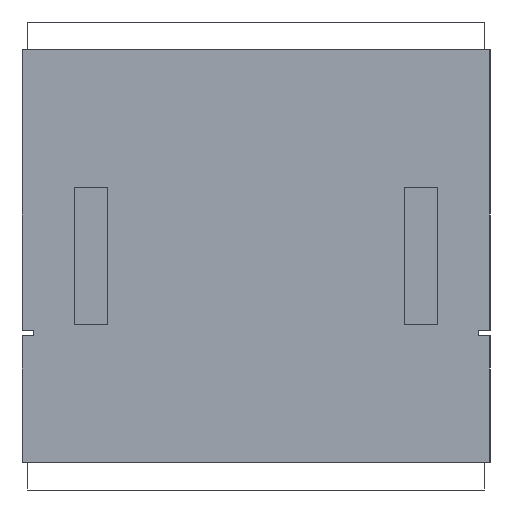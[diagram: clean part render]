
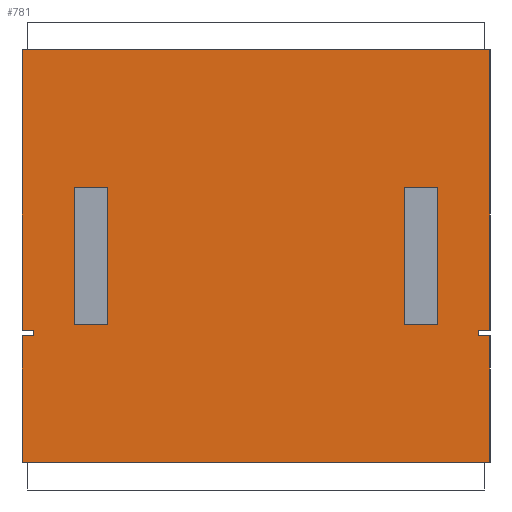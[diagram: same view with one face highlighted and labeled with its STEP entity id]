
A CAD part, left-side view. The second image highlights one B-rep face of the part: STEP entity #781.
In plain terms, the highlighted planar face has unit normal (-1, 0, 0).
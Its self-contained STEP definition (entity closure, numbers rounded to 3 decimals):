
#47=FACE_OUTER_BOUND('',#93,.T.);
#93=EDGE_LOOP('',(#582,#583,#584,#585,#586,#587,#588,#589,#590,#591,#592,
#593));
#126=LINE('',#1090,#234);
#130=LINE('',#1098,#238);
#133=LINE('',#1104,#241);
#136=LINE('',#1111,#244);
#140=LINE('',#1119,#248);
#143=LINE('',#1125,#251);
#146=LINE('',#1131,#254);
#155=LINE('',#1147,#263);
#156=LINE('',#1150,#264);
#158=LINE('',#1153,#266);
#160=LINE('',#1157,#268);
#161=LINE('',#1159,#269);
#234=VECTOR('',#888,10.);
#238=VECTOR('',#894,10.);
#241=VECTOR('',#899,10.);
#244=VECTOR('',#904,10.);
#248=VECTOR('',#910,10.);
#251=VECTOR('',#915,10.);
#254=VECTOR('',#920,10.);
#263=VECTOR('',#933,10.);
#264=VECTOR('',#936,10.);
#266=VECTOR('',#940,10.);
#268=VECTOR('',#944,10.);
#269=VECTOR('',#947,10.);
#342=VERTEX_POINT('',#1088);
#343=VERTEX_POINT('',#1089);
#346=VERTEX_POINT('',#1097);
#348=VERTEX_POINT('',#1103);
#350=VERTEX_POINT('',#1109);
#351=VERTEX_POINT('',#1110);
#354=VERTEX_POINT('',#1118);
#356=VERTEX_POINT('',#1124);
#358=VERTEX_POINT('',#1130);
#363=VERTEX_POINT('',#1145);
#364=VERTEX_POINT('',#1149);
#365=VERTEX_POINT('',#1155);
#414=EDGE_CURVE('',#342,#343,#126,.T.);
#418=EDGE_CURVE('',#346,#342,#130,.T.);
#421=EDGE_CURVE('',#343,#348,#133,.T.);
#424=EDGE_CURVE('',#350,#351,#136,.T.);
#428=EDGE_CURVE('',#354,#350,#140,.T.);
#431=EDGE_CURVE('',#356,#354,#143,.T.);
#434=EDGE_CURVE('',#358,#346,#146,.T.);
#443=EDGE_CURVE('',#351,#363,#155,.T.);
#444=EDGE_CURVE('',#364,#356,#156,.T.);
#446=EDGE_CURVE('',#363,#358,#158,.T.);
#448=EDGE_CURVE('',#348,#365,#160,.T.);
#449=EDGE_CURVE('',#365,#364,#161,.T.);
#582=ORIENTED_EDGE('',*,*,#421,.T.);
#583=ORIENTED_EDGE('',*,*,#448,.T.);
#584=ORIENTED_EDGE('',*,*,#449,.T.);
#585=ORIENTED_EDGE('',*,*,#444,.T.);
#586=ORIENTED_EDGE('',*,*,#431,.T.);
#587=ORIENTED_EDGE('',*,*,#428,.T.);
#588=ORIENTED_EDGE('',*,*,#424,.T.);
#589=ORIENTED_EDGE('',*,*,#443,.T.);
#590=ORIENTED_EDGE('',*,*,#446,.T.);
#591=ORIENTED_EDGE('',*,*,#434,.T.);
#592=ORIENTED_EDGE('',*,*,#418,.T.);
#593=ORIENTED_EDGE('',*,*,#414,.T.);
#735=PLANE('',#851);
#781=ADVANCED_FACE('',(#47),#735,.F.);
#851=AXIS2_PLACEMENT_3D('',#1160,#948,#949);
#888=DIRECTION('',(0.,0.,1.));
#894=DIRECTION('',(0.,1.,0.));
#899=DIRECTION('',(0.,-1.,0.));
#904=DIRECTION('',(0.,1.,0.));
#910=DIRECTION('',(0.,0.,-1.));
#915=DIRECTION('',(0.,-1.,0.));
#920=DIRECTION('',(0.,0.,1.));
#933=DIRECTION('',(0.,0.,-1.));
#936=DIRECTION('',(0.,0.,-1.));
#940=DIRECTION('',(0.,-1.,0.));
#944=DIRECTION('',(0.,0.,1.));
#947=DIRECTION('',(0.,1.,0.));
#948=DIRECTION('center_axis',(1.,0.,0.));
#949=DIRECTION('ref_axis',(0.,0.,-1.));
#1088=CARTESIAN_POINT('',(0.,-40.5,-14.5));
#1089=CARTESIAN_POINT('',(0.,-40.5,-13.5));
#1090=CARTESIAN_POINT('',(0.,-40.5,-7.25));
#1097=CARTESIAN_POINT('',(0.,-42.5,-14.5));
#1098=CARTESIAN_POINT('',(0.,-21.25,-14.5));
#1103=CARTESIAN_POINT('',(0.,-42.5,-13.5));
#1104=CARTESIAN_POINT('',(0.,-20.25,-13.5));
#1109=CARTESIAN_POINT('',(0.,40.5,-14.5));
#1110=CARTESIAN_POINT('',(0.,42.5,-14.5));
#1111=CARTESIAN_POINT('',(0.,20.25,-14.5));
#1118=CARTESIAN_POINT('',(0.,40.5,-13.5));
#1119=CARTESIAN_POINT('',(0.,40.5,-6.75));
#1124=CARTESIAN_POINT('',(0.,42.5,-13.5));
#1125=CARTESIAN_POINT('',(0.,21.25,-13.5));
#1130=CARTESIAN_POINT('',(0.,-42.5,-37.5));
#1131=CARTESIAN_POINT('',(0.,-42.5,-37.5));
#1145=CARTESIAN_POINT('',(0.,42.5,-37.5));
#1147=CARTESIAN_POINT('',(0.,42.5,37.5));
#1149=CARTESIAN_POINT('',(0.,42.5,37.5));
#1150=CARTESIAN_POINT('',(0.,42.5,37.5));
#1153=CARTESIAN_POINT('',(0.,42.5,-37.5));
#1155=CARTESIAN_POINT('',(0.,-42.5,37.5));
#1157=CARTESIAN_POINT('',(0.,-42.5,-37.5));
#1159=CARTESIAN_POINT('',(0.,-42.5,37.5));
#1160=CARTESIAN_POINT('Origin',(0.,0.,0.));
